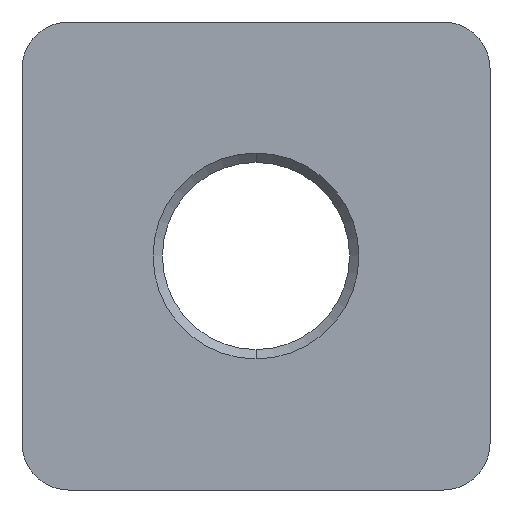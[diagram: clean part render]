
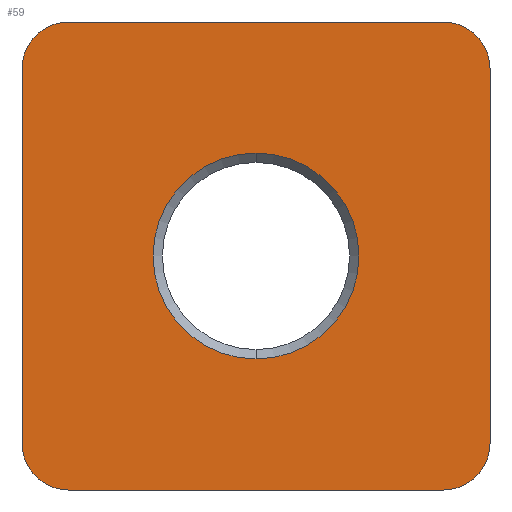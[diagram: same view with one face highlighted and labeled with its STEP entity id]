
A CAD part, front view. The second image highlights one B-rep face of the part: STEP entity #59.
In plain terms, the highlighted planar face has unit normal (0, -1, 0).
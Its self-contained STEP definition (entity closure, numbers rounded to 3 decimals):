
#30 = VERTEX_POINT ( 'NONE', #431 ) ;
#38 = VERTEX_POINT ( 'NONE', #478 ) ;
#48 = VERTEX_POINT ( 'NONE', #460 ) ;
#53 = EDGE_LOOP ( 'NONE', ( #56, #55 ) ) ;
#55 = ORIENTED_EDGE ( 'NONE', *, *, #74, .T. ) ;
#56 = ORIENTED_EDGE ( 'NONE', *, *, #289, .T. ) ;
#59 = ADVANCED_FACE ( 'NONE', ( #512, #511 ), #510, .F. ) ;
#64 = EDGE_CURVE ( 'NONE', #91, #30, #492, .T. ) ;
#71 = EDGE_CURVE ( 'NONE', #93, #91, #540, .T. ) ;
#74 = EDGE_CURVE ( 'NONE', #287, #290, #535, .T. ) ;
#79 = ORIENTED_EDGE ( 'NONE', *, *, #71, .F. ) ;
#80 = EDGE_LOOP ( 'NONE', ( #81, #83, #79, #84, #82, #102, #89, #94 ) ) ;
#81 = ORIENTED_EDGE ( 'NONE', *, *, #368, .F. ) ;
#82 = ORIENTED_EDGE ( 'NONE', *, *, #90, .F. ) ;
#83 = ORIENTED_EDGE ( 'NONE', *, *, #64, .F. ) ;
#84 = ORIENTED_EDGE ( 'NONE', *, *, #97, .F. ) ;
#89 = ORIENTED_EDGE ( 'NONE', *, *, #1166, .F. ) ;
#90 = EDGE_CURVE ( 'NONE', #355, #366, #576, .T. ) ;
#91 = VERTEX_POINT ( 'NONE', #572 ) ;
#93 = VERTEX_POINT ( 'NONE', #567 ) ;
#94 = ORIENTED_EDGE ( 'NONE', *, *, #379, .F. ) ;
#97 = EDGE_CURVE ( 'NONE', #366, #93, #560, .T. ) ;
#102 = ORIENTED_EDGE ( 'NONE', *, *, #360, .F. ) ;
#287 = VERTEX_POINT ( 'NONE', #850 ) ;
#289 = EDGE_CURVE ( 'NONE', #290, #287, #849, .T. ) ;
#290 = VERTEX_POINT ( 'NONE', #844 ) ;
#355 = VERTEX_POINT ( 'NONE', #966 ) ;
#360 = EDGE_CURVE ( 'NONE', #48, #355, #961, .T. ) ;
#366 = VERTEX_POINT ( 'NONE', #1009 ) ;
#368 = EDGE_CURVE ( 'NONE', #30, #38, #1008, .T. ) ;
#374 = VERTEX_POINT ( 'NONE', #992 ) ;
#379 = EDGE_CURVE ( 'NONE', #38, #374, #987, .T. ) ;
#431 = CARTESIAN_POINT ( 'NONE',  ( -16., 0., -20. ) ) ;
#460 = CARTESIAN_POINT ( 'NONE',  ( -16., 0., 20. ) ) ;
#478 = CARTESIAN_POINT ( 'NONE',  ( -20., 0., -16. ) ) ;
#489 = DIRECTION ( 'NONE',  ( -1., 0., 0. ) ) ;
#490 = VECTOR ( 'NONE', #489, 1000. ) ;
#491 = CARTESIAN_POINT ( 'NONE',  ( -16., 0., -20. ) ) ;
#492 = LINE ( 'NONE', #491, #490 ) ;
#506 = DIRECTION ( 'NONE',  ( 0., 0., 1. ) ) ;
#507 = DIRECTION ( 'NONE',  ( 0., 1., 0. ) ) ;
#508 = CARTESIAN_POINT ( 'NONE',  ( -16., 0., -16. ) ) ;
#509 = AXIS2_PLACEMENT_3D ( 'NONE', #508, #507, #506 ) ;
#510 = PLANE ( 'NONE',  #509 ) ;
#511 = FACE_OUTER_BOUND ( 'NONE', #80, .T. ) ;
#512 = FACE_BOUND ( 'NONE', #53, .T. ) ;
#519 = CARTESIAN_POINT ( 'NONE',  ( 16., 0., 16. ) ) ;
#531 = DIRECTION ( 'NONE',  ( 0., 0., 1. ) ) ;
#532 = DIRECTION ( 'NONE',  ( 0., 1., 0. ) ) ;
#533 = CARTESIAN_POINT ( 'NONE',  ( 0., 0., 0. ) ) ;
#534 = AXIS2_PLACEMENT_3D ( 'NONE', #533, #532, #531 ) ;
#535 = CIRCLE ( 'NONE', #534, 8.8 ) ;
#536 = DIRECTION ( 'NONE',  ( 0., 0., -1. ) ) ;
#537 = DIRECTION ( 'NONE',  ( 0., 1., 0. ) ) ;
#538 = CARTESIAN_POINT ( 'NONE',  ( 16., 0., -16. ) ) ;
#539 = AXIS2_PLACEMENT_3D ( 'NONE', #538, #537, #536 ) ;
#540 = CIRCLE ( 'NONE', #539, 4. ) ;
#557 = DIRECTION ( 'NONE',  ( 0., 0., -1. ) ) ;
#558 = VECTOR ( 'NONE', #557, 1000. ) ;
#559 = CARTESIAN_POINT ( 'NONE',  ( 20., 0., 16. ) ) ;
#560 = LINE ( 'NONE', #559, #558 ) ;
#567 = CARTESIAN_POINT ( 'NONE',  ( 20., 0., -16. ) ) ;
#572 = CARTESIAN_POINT ( 'NONE',  ( 16., 0., -20. ) ) ;
#573 = DIRECTION ( 'NONE',  ( 0., 0., 1. ) ) ;
#574 = DIRECTION ( 'NONE',  ( 0., 1., 0. ) ) ;
#575 = AXIS2_PLACEMENT_3D ( 'NONE', #519, #574, #573 ) ;
#576 = CIRCLE ( 'NONE', #575, 4. ) ;
#844 = CARTESIAN_POINT ( 'NONE',  ( 0., 0., -8.8 ) ) ;
#845 = DIRECTION ( 'NONE',  ( 0., 0., 1. ) ) ;
#846 = DIRECTION ( 'NONE',  ( 0., 1., 0. ) ) ;
#847 = CARTESIAN_POINT ( 'NONE',  ( 0., 0., 0. ) ) ;
#848 = AXIS2_PLACEMENT_3D ( 'NONE', #847, #846, #845 ) ;
#849 = CIRCLE ( 'NONE', #848, 8.8 ) ;
#850 = CARTESIAN_POINT ( 'NONE',  ( 0., 0., 8.8 ) ) ;
#958 = DIRECTION ( 'NONE',  ( 1., 0., 0. ) ) ;
#959 = VECTOR ( 'NONE', #958, 1000. ) ;
#960 = CARTESIAN_POINT ( 'NONE',  ( -16., 0., 20. ) ) ;
#961 = LINE ( 'NONE', #960, #959 ) ;
#966 = CARTESIAN_POINT ( 'NONE',  ( 16., 0., 20. ) ) ;
#986 = CARTESIAN_POINT ( 'NONE',  ( -20., 0., 16. ) ) ;
#987 = LINE ( 'NONE', #986, #1049 ) ;
#992 = CARTESIAN_POINT ( 'NONE',  ( -20., 0., 16. ) ) ;
#1004 = DIRECTION ( 'NONE',  ( 0., 0., 1. ) ) ;
#1005 = DIRECTION ( 'NONE',  ( 0., 1., 0. ) ) ;
#1006 = CARTESIAN_POINT ( 'NONE',  ( -16., 0., -16. ) ) ;
#1007 = AXIS2_PLACEMENT_3D ( 'NONE', #1006, #1005, #1004 ) ;
#1008 = CIRCLE ( 'NONE', #1007, 4. ) ;
#1009 = CARTESIAN_POINT ( 'NONE',  ( 20., 0., 16. ) ) ;
#1048 = DIRECTION ( 'NONE',  ( 0., 0., 1. ) ) ;
#1049 = VECTOR ( 'NONE', #1048, 1000. ) ;
#1061 = DIRECTION ( 'NONE',  ( 0., 0., -1. ) ) ;
#1062 = DIRECTION ( 'NONE',  ( 0., 1., 0. ) ) ;
#1063 = AXIS2_PLACEMENT_3D ( 'NONE', #1068, #1062, #1061 ) ;
#1064 = CIRCLE ( 'NONE', #1063, 4. ) ;
#1068 = CARTESIAN_POINT ( 'NONE',  ( -16., 0., 16. ) ) ;
#1166 = EDGE_CURVE ( 'NONE', #374, #48, #1064, .T. ) ;
